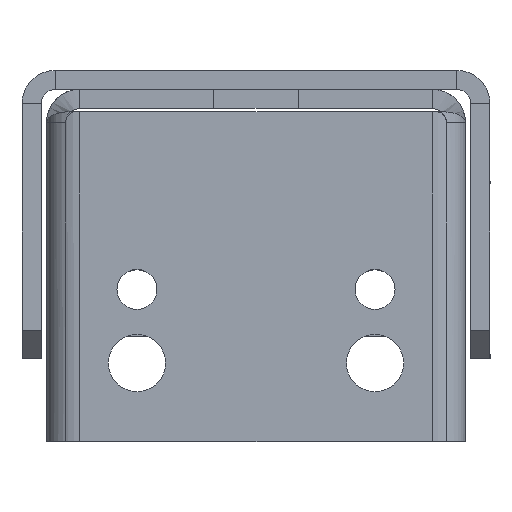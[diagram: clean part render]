
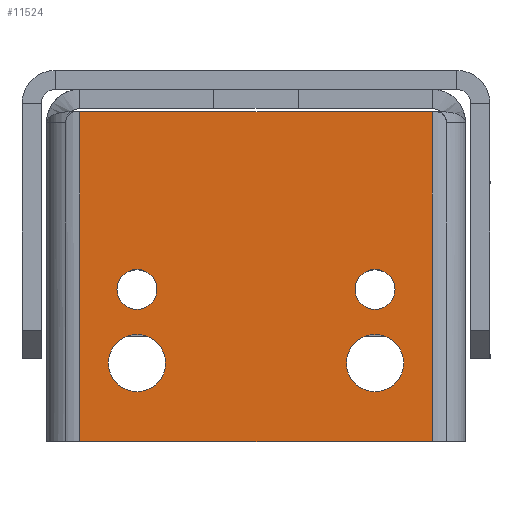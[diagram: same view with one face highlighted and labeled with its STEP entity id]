
A CAD part, left-side view. The second image highlights one B-rep face of the part: STEP entity #11524.
In plain terms, the highlighted planar face has unit normal (-1, 0, 0) as drawn and (0, 0, 1) by its records, which use the part's own axes.
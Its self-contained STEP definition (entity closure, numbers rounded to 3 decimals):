
#11524=ADVANCED_FACE('',(#22108,#22110,#22112,#22114,#22116),#22118,.F.);
#22108=FACE_BOUND('',#22109,.T.);
#22109=EDGE_LOOP('',(#29773,#29774,#29775,#29776));
#22110=FACE_BOUND('',#22111,.T.);
#22111=EDGE_LOOP('',(#29777));
#22112=FACE_BOUND('',#22113,.T.);
#22113=EDGE_LOOP('',(#29778));
#22114=FACE_BOUND('',#22115,.T.);
#22115=EDGE_LOOP('',(#29779));
#22116=FACE_BOUND('',#22117,.T.);
#22117=EDGE_LOOP('',(#29780));
#22118=PLANE('',#22119);
#22119=AXIS2_PLACEMENT_3D('',#22120,#22121,#22122);
#22120=CARTESIAN_POINT('',(18.5,22.,0.));
#22121=DIRECTION('',(0.,0.,-1.));
#22122=DIRECTION('',(-1.,0.,0.));
#29773=ORIENTED_EDGE('',*,*,#33511,.F.);
#29774=ORIENTED_EDGE('',*,*,#33512,.T.);
#29775=ORIENTED_EDGE('',*,*,#33513,.T.);
#29776=ORIENTED_EDGE('',*,*,#33514,.F.);
#29777=ORIENTED_EDGE('',*,*,#33461,.F.);
#29778=ORIENTED_EDGE('',*,*,#33463,.F.);
#29779=ORIENTED_EDGE('',*,*,#33465,.F.);
#29780=ORIENTED_EDGE('',*,*,#33467,.F.);
#33461=EDGE_CURVE('',#39577,#39577,#39578,.T.);
#33463=EDGE_CURVE('',#39581,#39581,#39582,.T.);
#33465=EDGE_CURVE('',#39585,#39585,#39586,.T.);
#33467=EDGE_CURVE('',#39589,#39589,#39590,.T.);
#33511=EDGE_CURVE('',#39669,#39670,#39671,.T.);
#33512=EDGE_CURVE('',#39669,#39672,#39673,.T.);
#33513=EDGE_CURVE('',#39672,#39674,#39675,.T.);
#33514=EDGE_CURVE('',#39670,#39674,#39676,.T.);
#39577=VERTEX_POINT('',#54241);
#39578=CIRCLE('',#54242,2.1);
#39581=VERTEX_POINT('',#54251);
#39582=CIRCLE('',#54252,3.);
#39585=VERTEX_POINT('',#54261);
#39586=CIRCLE('',#54262,2.1);
#39589=VERTEX_POINT('',#54271);
#39590=CIRCLE('',#54272,3.);
#39669=VERTEX_POINT('',#54441);
#39670=VERTEX_POINT('',#54442);
#39671=LINE('',#54443,#54444);
#39672=VERTEX_POINT('',#54446);
#39673=LINE('',#54447,#54448);
#39674=VERTEX_POINT('',#54450);
#39675=LINE('',#54451,#54452);
#39676=LINE('',#54454,#54455);
#54241=CARTESIAN_POINT('',(-0.4,-12.5,0.));
#54242=AXIS2_PLACEMENT_3D('',#54243,#54244,#54245);
#54243=CARTESIAN_POINT('',(-2.5,-12.5,0.));
#54244=DIRECTION('',(0.,0.,1.));
#54245=DIRECTION('',(-1.,0.,0.));
#54251=CARTESIAN_POINT('',(-7.25,-12.5,0.));
#54252=AXIS2_PLACEMENT_3D('',#54253,#54254,#54255);
#54253=CARTESIAN_POINT('',(-10.25,-12.5,0.));
#54254=DIRECTION('',(0.,0.,1.));
#54255=DIRECTION('',(-1.,0.,0.));
#54261=CARTESIAN_POINT('',(-0.4,12.5,0.));
#54262=AXIS2_PLACEMENT_3D('',#54263,#54264,#54265);
#54263=CARTESIAN_POINT('',(-2.5,12.5,0.));
#54264=DIRECTION('',(0.,0.,1.));
#54265=DIRECTION('',(-1.,0.,0.));
#54271=CARTESIAN_POINT('',(-7.25,12.5,0.));
#54272=AXIS2_PLACEMENT_3D('',#54273,#54274,#54275);
#54273=CARTESIAN_POINT('',(-10.25,12.5,0.));
#54274=DIRECTION('',(0.,0.,1.));
#54275=DIRECTION('',(-1.,0.,0.));
#54441=CARTESIAN_POINT('',(16.146,18.5,0.));
#54442=CARTESIAN_POINT('',(16.146,-18.5,0.));
#54443=CARTESIAN_POINT('',(16.146,18.5,0.));
#54444=VECTOR('',#54445,1.);
#54445=DIRECTION('',(0.,-1.,0.));
#54446=CARTESIAN_POINT('',(-18.5,18.5,0.));
#54447=CARTESIAN_POINT('',(16.146,18.5,0.));
#54448=VECTOR('',#54449,1.);
#54449=DIRECTION('',(-1.,0.,0.));
#54450=CARTESIAN_POINT('',(-18.5,-18.5,0.));
#54451=CARTESIAN_POINT('',(-18.5,18.5,0.));
#54452=VECTOR('',#54453,1.);
#54453=DIRECTION('',(0.,-1.,0.));
#54454=CARTESIAN_POINT('',(16.146,-18.5,0.));
#54455=VECTOR('',#54456,1.);
#54456=DIRECTION('',(-1.,0.,0.));
